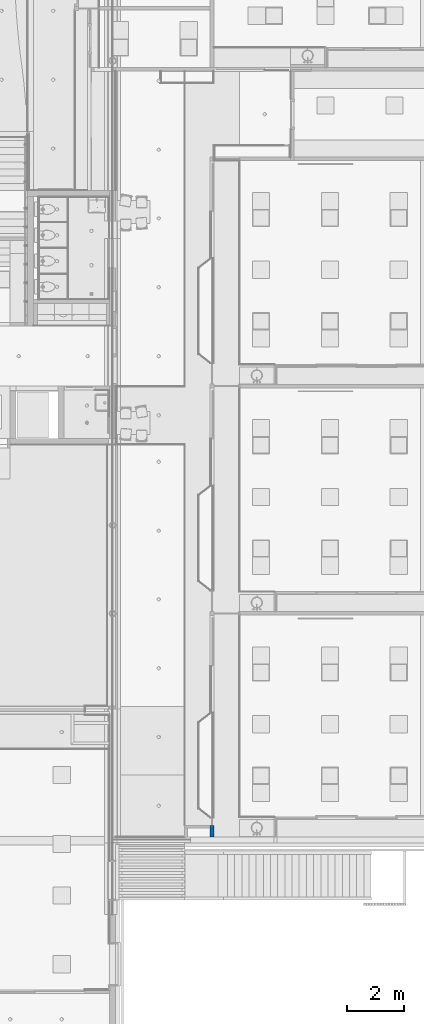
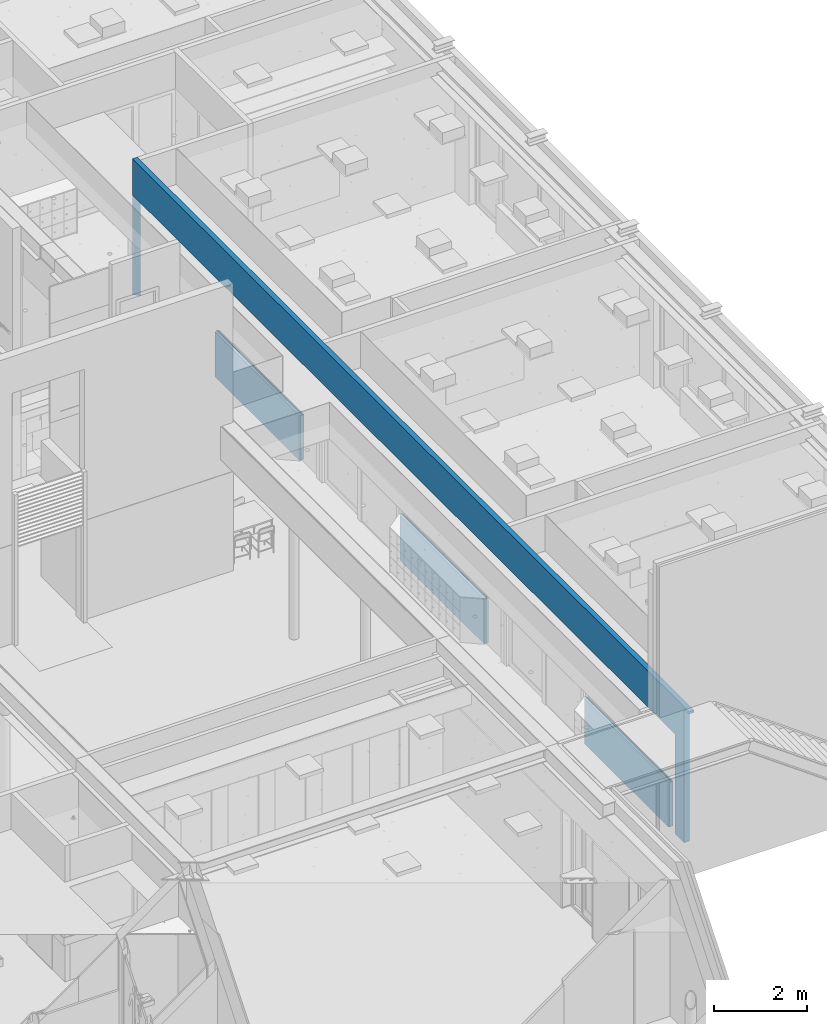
# One storey, part 51 of 347: 1 wall, 15 openings.
"""IFC2X3 building model written with IfcOpenShell, lengths in millimetres."""

from ifc_helpers import new_model, entity, si_unit, converted_unit, derived_unit, money_unit, direction, frame, origin_with_axes, place, context, subcontext, project, spatial, faceted_brep, material, type_object, element, save


model = new_model("IFC2X3")

# Units and contexts
model_context = context("Model", 3, precision=0.01, world=origin_with_axes(), true_north=direction((0.0, 1.0)))
plan_context = context("Plan", 3, precision=0.01, world=origin_with_axes(), true_north=direction((0.0, 1.0)))
body_context = subcontext(model_context, "Body", "Model", "MODEL_VIEW")
ifc_project = project(units=[si_unit("LENGTHUNIT", "METRE", prefix="MILLI"), si_unit("AREAUNIT", "SQUARE_METRE"), si_unit("VOLUMEUNIT", "CUBIC_METRE"), converted_unit("PLANEANGLEUNIT", "DEGREE", entity("IfcPlaneAngleMeasure", 0.0174532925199), si_unit("PLANEANGLEUNIT", "RADIAN"), dimensions=[0, 0, 0, 0, 0, 0, 0]), money_unit("EUR"), converted_unit("TIMEUNIT", "Year", entity("IfcTimeMeasure", 31556926.0), si_unit("TIMEUNIT", "SECOND"), dimensions=[0, 0, 1, 0, 0, 0, 0]), si_unit("MASSUNIT", "GRAM", prefix="KILO"), si_unit("THERMODYNAMICTEMPERATUREUNIT", "DEGREE_CELSIUS"), si_unit("LUMINOUSINTENSITYUNIT", "LUMEN"), si_unit("ENERGYUNIT", "JOULE", prefix="MEGA"), derived_unit("THERMALCONDUCTANCEUNIT", [(si_unit("POWERUNIT", "WATT"), 1), (si_unit("LENGTHUNIT", "METRE"), -1), (si_unit("THERMODYNAMICTEMPERATUREUNIT", "KELVIN"), -1)]), derived_unit("SPECIFICHEATCAPACITYUNIT", [(si_unit("ENERGYUNIT", "JOULE"), 1), (si_unit("MASSUNIT", "GRAM", prefix="KILO"), -1), (si_unit("THERMODYNAMICTEMPERATUREUNIT", "KELVIN"), -1)]), derived_unit("MASSDENSITYUNIT", [(si_unit("MASSUNIT", "GRAM", prefix="KILO"), 1), (si_unit("VOLUMEUNIT", "CUBIC_METRE"), -1)])], contexts=[model_context, plan_context])

# Site, building, storey
site_placement = place(None, origin_with_axes())
site = spatial("IfcSite", under=ifc_project, at=site_placement, Name="Site", CompositionType="ELEMENT")
building_placement = place(site_placement, origin_with_axes())
building = spatial("IfcBuilding", under=site, at=building_placement, Name="Naam gebouw", CompositionType="ELEMENT")
storey_placement = place(building_placement, origin_with_axes())
storey = spatial("IfcBuildingStorey", under=building, at=storey_placement, Name="begane grond", CompositionType="ELEMENT", Elevation=0.0)

# Wall, openings
ifc_material = material(Name="ALG - LICHTE SCHEIDINGSWAND")
wall_type = type_object("IfcWallType", Name="ALG LSW 125 125", PredefinedType="NOTDEFINED")
wall_placement = place(storey_placement, frame((48075.0, 12200.0000472, 0.0), z_axis=(0.0, 0.0, 1.0), x_axis=(0.0, 1.0, 0.0)))
wall = element("IfcWall", 1, at=wall_placement, inside=storey, type_object=wall_type, material=ifc_material, Name="22_GF 125 ECO DGS/2.75.2A", context=body_context, shape_type="Brep", body=[
    faceted_brep([(730.499952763, 12.0, 0.0), (4380.49995276, 12.0, 0.0), (4380.49995276, 12.0, 1175.0), (730.499952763, 12.0, 1175.0), (4352.72991758, 125.0, 0.0), (4380.49995276, 88.9482869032, 0.0), (730.499952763, 104.527695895, 0.0), (746.271054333, 125.0, 0.0), (740.499952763, 72.4815328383, 0.0), (740.499952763, 71.7738242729, 0.0), (740.950508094, 72.4815328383, 0.0), (4380.49995276, 52.5, 1200.0), (4380.49995276, 52.5, 1175.0), (4380.49995276, 88.9482869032, 1178.0), (4380.49995276, 72.5, 1178.0), (4380.49995276, 72.5, 1200.0), (730.499952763, 52.5, 1175.0), (730.499952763, 104.527695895, 1175.0), (4352.72991758, 125.0, 1178.0), (718.499952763, 88.9506197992, 1175.0), (718.499952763, 88.9506197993, 1178.0), (746.271054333, 125.0, 1178.0), (740.499952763, 71.7738242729, 1178.0), (740.499952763, 72.4815328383, 1178.0), (740.950508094, 72.4815328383, 1178.0), (718.499952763, 52.5, 1200.0), (718.499952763, 52.5, 1175.0), (718.499952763, 72.5, 1178.0), (718.499952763, 72.5, 1200.0)], [[[0, 1, 2, 3]], [[4, 5, 1, 0, 6, 7], [8, 9, 10]], [[11, 12, 2, 1, 5, 13, 14, 15]], [[3, 2, 12, 16]], [[0, 3, 16, 17, 6]], [[18, 13, 5, 4]], [[17, 19, 20, 21, 7, 6]], [[21, 18, 4, 7]], [[22, 9, 8, 23]], [[24, 10, 9, 22]], [[23, 8, 10, 24]], [[16, 12, 11, 25, 26]], [[27, 14, 13, 18, 21, 20]], [[28, 15, 14, 27]], [[25, 11, 15, 28]], [[17, 16, 26, 19]], [[19, 26, 25, 28, 27, 20]], [[22, 23, 24]]]),
    faceted_brep([(59.9999722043, 0.0, 0.0), (460.000027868, 0.0, 0.0), (460.000027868, 0.0, 2600.0), (460.000027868, 0.0, 2612.0), (23762.4999528, 0.0, 2612.0), (23762.4999528, 0.0, 3560.0), (-150.000011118, 0.0, 3560.0), (-150.000011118, 0.0, 3499.99999902), (59.9999722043, 0.0, 3499.99999902), (59.9999722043, 125.0, 0.0), (460.000027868, 125.0, 0.0), (460.000027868, 125.0, 2600.0), (460.000027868, 125.0, 2612.0), (23762.4999528, 125.0, 2612.0), (23762.4999528, 125.0, 3560.0), (-150.000011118, 125.0, 3560.0), (-150.000011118, 125.0, 3499.99999902), (59.9999722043, 125.0, 3499.99999902)], [[[0, 1, 2, 3, 4, 5, 6, 7, 8]], [[0, 9, 10, 1]], [[1, 10, 11, 2]], [[11, 12, 3, 2]], [[3, 12, 13, 4]], [[14, 5, 4, 13]], [[6, 5, 14, 15]], [[6, 15, 16, 7]], [[16, 17, 8, 7]], [[8, 17, 9, 0]], [[15, 14, 13, 12, 11, 10, 9, 17, 16]]]),
    faceted_brep([(23762.4999528, 125.0, 2600.0), (23637.4999528, 0.0, 2600.0), (23762.4999528, 0.0, 2600.0), (23637.4999528, 0.0, 0.0), (23762.4999528, 125.0, 0.0), (23762.4999528, 0.0, 0.0)], [[[0, 1, 2]], [[3, 1, 0, 4]], [[1, 3, 5, 2]], [[4, 0, 2, 5]], [[3, 4, 5]]]),
    faceted_brep([(12305.4999528, 12.0, 1175.0), (8655.49995276, 12.0, 1175.0), (8655.49995276, 12.0, 0.0), (12305.4999528, 12.0, 0.0), (12305.4999528, 56.0, 1175.0), (8655.49995276, 56.0, 1175.0), (8655.49995276, 104.527695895, 1175.0), (8655.49995276, 104.527695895, 0.0), (8671.27105433, 125.0, 0.0), (12277.7299176, 125.0, 0.0), (12305.4999528, 88.9482869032, 0.0), (8665.95050809, 72.4815328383, 0.0), (8665.49995276, 72.4815328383, 0.0), (8665.49995276, 71.7738242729, 0.0), (12305.4999528, 72.5, 1178.0), (12305.4999528, 72.5, 1200.0), (12305.4999528, 56.0, 1200.0), (12305.4999528, 88.9482869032, 1178.0), (8643.49995276, 56.0, 1200.0), (8643.49995276, 56.0, 1175.0), (8643.49995276, 88.9506197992, 1175.0), (8643.49995276, 88.9506197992, 1178.0), (8671.27105433, 125.0, 1178.0), (12277.7299176, 125.0, 1178.0), (8665.95050809, 72.4815328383, 1178.0), (8665.49995276, 72.4815328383, 1178.0), (8665.49995276, 71.7738242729, 1178.0), (8643.49995276, 72.5, 1178.0), (8643.49995276, 72.5, 1200.0)], [[[0, 1, 2, 3]], [[4, 5, 1, 0]], [[2, 1, 5, 6, 7]], [[7, 8, 9, 10, 3, 2], [11, 12, 13]], [[14, 15, 16, 4, 0, 3, 10, 17]], [[18, 19, 5, 4, 16]], [[19, 20, 6, 5]], [[21, 22, 8, 7, 6, 20]], [[23, 9, 8, 22]], [[10, 9, 23, 17]], [[12, 11, 24, 25]], [[13, 12, 25, 26]], [[11, 13, 26, 24]], [[14, 27, 28, 15]], [[15, 28, 18, 16]], [[22, 21, 27, 14, 17, 23]], [[18, 28, 27, 21, 20, 19]], [[24, 26, 25]]]),
    faceted_brep([(16580.4999528, 12.0, 0.0), (20230.4999528, 12.0, 0.0), (20230.4999528, 12.0, 1175.0), (16580.4999528, 12.0, 1175.0), (16580.4999528, 104.527695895, 0.0), (16596.2710543, 125.0, 0.0), (20202.7299176, 125.0, 0.0), (20230.4999528, 88.9482869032, 0.0), (16590.4999528, 71.7738242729, 0.0), (16590.9505081, 72.4815328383, 0.0), (16590.4999528, 72.4815328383, 0.0), (20230.4999528, 88.9482869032, 1178.0), (20230.4999528, 72.5, 1178.0), (20230.4999528, 72.5, 1200.0), (20230.4999528, 56.0, 1200.0), (20230.4999528, 56.0, 1175.0), (16580.4999528, 56.0, 1175.0), (16580.4999528, 104.527695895, 1175.0), (16568.4999528, 88.9506197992, 1175.0), (16568.4999528, 88.9506197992, 1178.0), (16596.2710543, 125.0, 1178.0), (20202.7299176, 125.0, 1178.0), (16590.4999528, 71.7738242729, 1178.0), (16590.9505081, 72.4815328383, 1178.0), (16590.4999528, 72.4815328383, 1178.0), (16568.4999528, 72.5, 1178.0), (16568.4999528, 72.5, 1200.0), (16568.4999528, 56.0, 1200.0), (16568.4999528, 56.0, 1175.0)], [[[0, 1, 2, 3]], [[1, 0, 4, 5, 6, 7], [8, 9, 10]], [[7, 11, 12, 13, 14, 15, 2, 1]], [[3, 2, 15, 16]], [[0, 3, 16, 17, 4]], [[5, 4, 17, 18, 19, 20]], [[6, 5, 20, 21]], [[21, 11, 7, 6]], [[8, 22, 23, 9]], [[9, 23, 24, 10]], [[10, 24, 22, 8]], [[11, 21, 20, 19, 25, 12]], [[26, 13, 12, 25]], [[27, 14, 13, 26]], [[15, 14, 27, 28, 16]], [[17, 16, 28, 18]], [[25, 19, 18, 28, 27, 26]], [[24, 23, 22]]]),
])
opening_1_placement = place(wall_placement, frame((23699.9999528, 0.0, 0.0), z_axis=(0.0, 0.0, 1.0), x_axis=(1.0, 0.0, 0.0)))
element("IfcOpeningElement", 2, at=opening_1_placement, cuts=wall, Name="32_-", context=body_context, shape_type="Brep", body=[
    faceted_brep([(-69.5, 132.0, 0.0), (-69.5, -7.00000000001, 0.0), (-69.5, -7.00000000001, 2600.0), (-69.5, 132.0, 2600.0), (69.5, 132.0, 0.0), (69.5, 132.0, 2600.0)], [[[0, 1, 2, 3]], [[1, 0, 4]], [[2, 1, 4, 5]], [[5, 3, 2]], [[0, 3, 5, 4]]]),
])
opening_2_placement = place(wall_placement, frame((19314.9999528, 0.0, 1200.0), z_axis=(0.0, 0.0, 1.0), x_axis=(1.0, 0.0, 0.0)))
element("IfcOpeningElement", 3, at=opening_2_placement, cuts=wall, Name="31_11.01", context=body_context, shape_type="Brep", body=[
    faceted_brep([(915.5, -125.0, 1400.0), (915.5, -125.0, 0.0), (915.5, 72.5, 0.0), (915.5, 72.5, 1400.0), (-915.5, -125.0, 1400.0), (-915.5, -125.0, 0.0), (-915.5, 72.5, 0.0), (-915.5, 72.5, 1400.0)], [[[0, 1, 2, 3]], [[0, 4, 5, 1]], [[1, 5, 6, 2]], [[3, 2, 6, 7]], [[4, 0, 3, 7]], [[5, 4, 7, 6]]]),
    faceted_brep([(915.5, 250.0, 0.0), (915.5, 250.0, 1400.0), (915.5, 72.5, 1400.0), (915.5, 72.5, 0.0), (-915.5, 250.0, 0.0), (-915.5, 250.0, 1400.0), (-915.5, 72.5, 1400.0), (-915.5, 72.5, 0.0)], [[[0, 1, 2, 3]], [[0, 4, 5, 1]], [[1, 5, 6, 2]], [[3, 2, 6, 7]], [[4, 0, 3, 7]], [[5, 4, 7, 6]]]),
])
opening_3_placement = place(wall_placement, frame((16206.4999528, 0.0, 0.0), z_axis=(0.0, 0.0, 1.0), x_axis=(1.0, 0.0, 0.0)))
element("IfcOpeningElement", 4, at=opening_3_placement, cuts=wall, Name="32_10.01", context=body_context, shape_type="Brep", body=[
    faceted_brep([(362.0, -125.0, 2600.0), (362.0, -125.0, 0.0), (362.0, 72.5, 0.0), (362.0, 72.5, 2600.0), (-362.0, -125.0, 2600.0), (-362.0, -125.0, 0.0), (-362.0, 72.5, 0.0), (-362.0, 72.5, 2600.0)], [[[0, 1, 2, 3]], [[0, 4, 5, 1]], [[1, 5, 6, 2]], [[3, 2, 6, 7]], [[4, 0, 3, 7]], [[5, 4, 7, 6]]]),
    faceted_brep([(362.0, 250.0, 0.0), (362.0, 250.0, 2600.0), (362.0, 72.5, 2600.0), (362.0, 72.5, 0.0), (-362.0, 250.0, 0.0), (-362.0, 250.0, 2600.0), (-362.0, 72.5, 2600.0), (-362.0, 72.5, 0.0)], [[[0, 1, 2, 3]], [[0, 4, 5, 1]], [[1, 5, 6, 2]], [[3, 2, 6, 7]], [[4, 0, 3, 7]], [[5, 4, 7, 6]]]),
])
opening_4_placement = place(wall_placement, frame((15774.9999528, 0.0, 0.0), z_axis=(0.0, 0.0, 1.0), x_axis=(1.0, 0.0, 0.0)))
element("IfcOpeningElement", 5, at=opening_4_placement, cuts=wall, Name="32_-", context=body_context, shape_type="Brep", body=[
    faceted_brep([(69.5, -132.0, 2600.0), (69.5, -132.0, 0.0), (69.5, 132.0, 0.0), (69.5, 132.0, 2600.0), (-69.5, -132.0, 2600.0), (-69.5, -132.0, 0.0), (-69.5, 132.0, 0.0), (-69.5, 132.0, 2600.0)], [[[0, 1, 2, 3]], [[0, 4, 5, 1]], [[1, 5, 6, 2]], [[3, 2, 6, 7]], [[4, 0, 3, 7]], [[5, 4, 7, 6]]]),
])
opening_5_placement = place(wall_placement, frame((11389.9999528, 0.0, 1200.0), z_axis=(0.0, 0.0, 1.0), x_axis=(1.0, 0.0, 0.0)))
element("IfcOpeningElement", 6, at=opening_5_placement, cuts=wall, Name="31_11.01", context=body_context, shape_type="Brep", body=[
    faceted_brep([(915.5, -125.0, 1400.0), (915.5, -125.0, 0.0), (915.5, 72.5, 0.0), (915.5, 72.5, 1400.0), (-915.5, -125.0, 1400.0), (-915.5, -125.0, 0.0), (-915.5, 72.5, 0.0), (-915.5, 72.5, 1400.0)], [[[0, 1, 2, 3]], [[0, 4, 5, 1]], [[1, 5, 6, 2]], [[3, 2, 6, 7]], [[4, 0, 3, 7]], [[5, 4, 7, 6]]]),
    faceted_brep([(915.5, 250.0, 0.0), (915.5, 250.0, 1400.0), (915.5, 72.5, 1400.0), (915.5, 72.5, 0.0), (-915.5, 250.0, 0.0), (-915.5, 250.0, 1400.0), (-915.5, 72.5, 1400.0), (-915.5, 72.5, 0.0)], [[[0, 1, 2, 3]], [[0, 4, 5, 1]], [[1, 5, 6, 2]], [[3, 2, 6, 7]], [[4, 0, 3, 7]], [[5, 4, 7, 6]]]),
])
opening_6_placement = place(wall_placement, frame((8281.49995276, 0.0, 0.0), z_axis=(0.0, 0.0, 1.0), x_axis=(1.0, 0.0, 0.0)))
element("IfcOpeningElement", 7, at=opening_6_placement, cuts=wall, Name="32_10.01", context=body_context, shape_type="Brep", body=[
    faceted_brep([(362.0, -125.0, 2600.0), (362.0, -125.0, 0.0), (362.0, 72.5, 0.0), (362.0, 72.5, 2600.0), (-362.0, -125.0, 2600.0), (-362.0, -125.0, 0.0), (-362.0, 72.5, 0.0), (-362.0, 72.5, 2600.0)], [[[0, 1, 2, 3]], [[0, 4, 5, 1]], [[1, 5, 6, 2]], [[3, 2, 6, 7]], [[4, 0, 3, 7]], [[5, 4, 7, 6]]]),
    faceted_brep([(362.0, 250.0, 0.0), (362.0, 250.0, 2600.0), (362.0, 72.5, 2600.0), (362.0, 72.5, 0.0), (-362.0, 250.0, 0.0), (-362.0, 250.0, 2600.0), (-362.0, 72.5, 2600.0), (-362.0, 72.5, 0.0)], [[[0, 1, 2, 3]], [[0, 4, 5, 1]], [[1, 5, 6, 2]], [[3, 2, 6, 7]], [[4, 0, 3, 7]], [[5, 4, 7, 6]]]),
])
opening_7_placement = place(wall_placement, frame((7849.99995276, 0.0, 0.0), z_axis=(0.0, 0.0, 1.0), x_axis=(1.0, 0.0, 0.0)))
element("IfcOpeningElement", 8, at=opening_7_placement, cuts=wall, Name="32_-", context=body_context, shape_type="Brep", body=[
    faceted_brep([(69.5, -132.0, 2600.0), (69.5, -132.0, 0.0), (69.5, 132.0, 0.0), (69.5, 132.0, 2600.0), (-69.5, -132.0, 2600.0), (-69.5, -132.0, 0.0), (-69.5, 132.0, 0.0), (-69.5, 132.0, 2600.0)], [[[0, 1, 2, 3]], [[0, 4, 5, 1]], [[1, 5, 6, 2]], [[3, 2, 6, 7]], [[4, 0, 3, 7]], [[5, 4, 7, 6]]]),
])
opening_8_placement = place(wall_placement, frame((3464.99995276, 0.0, 1200.0), z_axis=(0.0, 0.0, 1.0), x_axis=(1.0, 0.0, 0.0)))
element("IfcOpeningElement", 9, at=opening_8_placement, cuts=wall, Name="31_11.01", context=body_context, shape_type="Brep", body=[
    faceted_brep([(915.5, -125.0, 1400.0), (915.5, -125.0, 0.0), (915.5, 72.5, 0.0), (915.5, 72.5, 1400.0), (-915.5, -125.0, 1400.0), (-915.5, -125.0, 0.0), (-915.5, 72.5, 0.0), (-915.5, 72.5, 1400.0)], [[[0, 1, 2, 3]], [[0, 4, 5, 1]], [[1, 5, 6, 2]], [[3, 2, 6, 7]], [[4, 0, 3, 7]], [[5, 4, 7, 6]]]),
    faceted_brep([(915.5, 250.0, 0.0), (915.5, 250.0, 1400.0), (915.5, 72.5, 1400.0), (915.5, 72.5, 0.0), (-915.5, 250.0, 0.0), (-915.5, 250.0, 1400.0), (-915.5, 72.5, 1400.0), (-915.5, 72.5, 0.0)], [[[0, 1, 2, 3]], [[0, 4, 5, 1]], [[1, 5, 6, 2]], [[3, 2, 6, 7]], [[4, 0, 3, 7]], [[5, 4, 7, 6]]]),
])
opening_9_placement = place(wall_placement, frame((589.249990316, 0.0, 0.0), z_axis=(0.0, 0.0, 1.0), x_axis=(1.0, 0.0, 0.0)))
element("IfcOpeningElement", 10, at=opening_9_placement, cuts=wall, Name="32_10.06", context=body_context, shape_type="Brep", body=[
    faceted_brep([(129.249962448, -125.0, 2600.0), (129.249962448, -125.0, 0.0), (129.249962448, 72.5, 0.0), (129.249962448, 72.5, 2600.0), (-129.249962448, -125.0, 2600.0), (-129.249962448, -125.0, 0.0), (-129.249962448, 72.5, 0.0), (-129.249962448, 72.5, 2600.0)], [[[0, 1, 2, 3]], [[0, 4, 5, 1]], [[1, 5, 6, 2]], [[3, 2, 6, 7]], [[4, 0, 3, 7]], [[5, 4, 7, 6]]]),
    faceted_brep([(129.249962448, 250.0, 0.0), (129.249962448, 250.0, 2600.0), (129.249962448, 72.5, 2600.0), (129.249962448, 72.5, 0.0), (-129.249962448, 250.0, 0.0), (-129.249962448, 250.0, 2600.0), (-129.249962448, 72.5, 2600.0), (-129.249962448, 72.5, 0.0)], [[[0, 1, 2, 3]], [[0, 4, 5, 1]], [[1, 5, 6, 2]], [[3, 2, 6, 7]], [[4, 0, 3, 7]], [[5, 4, 7, 6]]]),
])
opening_10_placement = place(wall_placement, frame((17483.9999528, 0.0, 1200.0), z_axis=(0.0, 0.0, 1.0), x_axis=(1.0, 0.0, 0.0)))
element("IfcOpeningElement", 11, at=opening_10_placement, cuts=wall, Name="31_11.01", context=body_context, shape_type="Brep", body=[
    faceted_brep([(915.5, -125.0, 1400.0), (915.5, -125.0, 0.0), (915.5, 72.5, 0.0), (915.5, 72.5, 1400.0), (-915.5, -125.0, 1400.0), (-915.5, -125.0, 0.0), (-915.5, 72.5, 0.0), (-915.5, 72.5, 1400.0)], [[[0, 1, 2, 3]], [[0, 4, 5, 1]], [[1, 5, 6, 2]], [[3, 2, 6, 7]], [[4, 0, 3, 7]], [[5, 4, 7, 6]]]),
    faceted_brep([(915.5, 250.0, 0.0), (915.5, 250.0, 1400.0), (915.5, 72.5, 1400.0), (915.5, 72.5, 0.0), (-915.5, 250.0, 0.0), (-915.5, 250.0, 1400.0), (-915.5, 72.5, 1400.0), (-915.5, 72.5, 0.0)], [[[0, 1, 2, 3]], [[0, 4, 5, 1]], [[1, 5, 6, 2]], [[3, 2, 6, 7]], [[4, 0, 3, 7]], [[5, 4, 7, 6]]]),
])
opening_11_placement = place(wall_placement, frame((9558.99995276, 0.0, 1200.0), z_axis=(0.0, 0.0, 1.0), x_axis=(1.0, 0.0, 0.0)))
element("IfcOpeningElement", 12, at=opening_11_placement, cuts=wall, Name="31_11.01", context=body_context, shape_type="Brep", body=[
    faceted_brep([(915.5, -125.0, 1400.0), (915.5, -125.0, 0.0), (915.5, 72.5, 0.0), (915.5, 72.5, 1400.0), (-915.5, -125.0, 1400.0), (-915.5, -125.0, 0.0), (-915.5, 72.5, 0.0), (-915.5, 72.5, 1400.0)], [[[0, 1, 2, 3]], [[0, 4, 5, 1]], [[1, 5, 6, 2]], [[3, 2, 6, 7]], [[4, 0, 3, 7]], [[5, 4, 7, 6]]]),
    faceted_brep([(915.5, 250.0, 0.0), (915.5, 250.0, 1400.0), (915.5, 72.5, 1400.0), (915.5, 72.5, 0.0), (-915.5, 250.0, 0.0), (-915.5, 250.0, 1400.0), (-915.5, 72.5, 1400.0), (-915.5, 72.5, 0.0)], [[[0, 1, 2, 3]], [[0, 4, 5, 1]], [[1, 5, 6, 2]], [[3, 2, 6, 7]], [[4, 0, 3, 7]], [[5, 4, 7, 6]]]),
])
opening_12_placement = place(wall_placement, frame((1633.99995276, 0.0, 1200.0), z_axis=(0.0, 0.0, 1.0), x_axis=(1.0, 0.0, 0.0)))
element("IfcOpeningElement", 13, at=opening_12_placement, cuts=wall, Name="31_11.01", context=body_context, shape_type="Brep", body=[
    faceted_brep([(915.5, -125.0, 1400.0), (915.5, -125.0, 0.0), (915.5, 72.5, 0.0), (915.5, 72.5, 1400.0), (-915.5, -125.0, 1400.0), (-915.5, -125.0, 0.0), (-915.5, 72.5, 0.0), (-915.5, 72.5, 1400.0)], [[[0, 1, 2, 3]], [[0, 4, 5, 1]], [[1, 5, 6, 2]], [[3, 2, 6, 7]], [[4, 0, 3, 7]], [[5, 4, 7, 6]]]),
    faceted_brep([(915.5, 250.0, 0.0), (915.5, 250.0, 1400.0), (915.5, 72.5, 1400.0), (915.5, 72.5, 0.0), (-915.5, 250.0, 0.0), (-915.5, 250.0, 1400.0), (-915.5, 72.5, 1400.0), (-915.5, 72.5, 0.0)], [[[0, 1, 2, 3]], [[0, 4, 5, 1]], [[1, 5, 6, 2]], [[3, 2, 6, 7]], [[4, 0, 3, 7]], [[5, 4, 7, 6]]]),
])
opening_13_placement = place(wall_placement, frame((21930.4999528, 0.0, 0.0), z_axis=(0.0, 0.0, 1.0), x_axis=(1.0, 0.0, 0.0)))
element("IfcOpeningElement", 14, at=opening_13_placement, cuts=wall, Name="32_06.02", context=body_context, shape_type="Brep", body=[
    faceted_brep([(1700.0, -132.0, 2599.99996583), (1700.0, -132.0, 0.0), (1700.0, 132.0, 0.0), (1700.0, 132.0, 2599.99996583), (-1700.0, -132.0, 2599.99996583), (-1700.0, -132.0, 0.0), (-1700.0, 132.0, 0.0), (-1700.0, 132.0, 2599.99996583)], [[[0, 1, 2, 3]], [[0, 4, 5, 1]], [[1, 5, 6, 2]], [[3, 2, 6, 7]], [[4, 0, 3, 7]], [[5, 4, 7, 6]]]),
])
opening_14_placement = place(wall_placement, frame((14005.4999528, 0.0, 0.0), z_axis=(0.0, 0.0, 1.0), x_axis=(1.0, 0.0, 0.0)))
element("IfcOpeningElement", 15, at=opening_14_placement, cuts=wall, Name="32_06.02", context=body_context, shape_type="Brep", body=[
    faceted_brep([(1700.0, -132.0, 2599.99996583), (1700.0, -132.0, 0.0), (1700.0, 132.0, 0.0), (1700.0, 132.0, 2599.99996583), (-1700.0, -132.0, 2599.99996583), (-1700.0, -132.0, 0.0), (-1700.0, 132.0, 0.0), (-1700.0, 132.0, 2599.99996583)], [[[0, 1, 2, 3]], [[0, 4, 5, 1]], [[1, 5, 6, 2]], [[3, 2, 6, 7]], [[4, 0, 3, 7]], [[5, 4, 7, 6]]]),
])
opening_15_placement = place(wall_placement, frame((6080.49995276, 0.0, 0.0), z_axis=(0.0, 0.0, 1.0), x_axis=(1.0, 0.0, 0.0)))
element("IfcOpeningElement", 16, at=opening_15_placement, cuts=wall, Name="32_06.02", context=body_context, shape_type="Brep", body=[
    faceted_brep([(1700.0, -132.0, 2599.99996583), (1700.0, -132.0, 0.0), (1700.0, 132.0, 0.0), (1700.0, 132.0, 2599.99996583), (-1700.0, -132.0, 2599.99996583), (-1700.0, -132.0, 0.0), (-1700.0, 132.0, 0.0), (-1700.0, 132.0, 2599.99996583)], [[[0, 1, 2, 3]], [[0, 4, 5, 1]], [[1, 5, 6, 2]], [[3, 2, 6, 7]], [[4, 0, 3, 7]], [[5, 4, 7, 6]]]),
])

save(model, "model.ifc")
